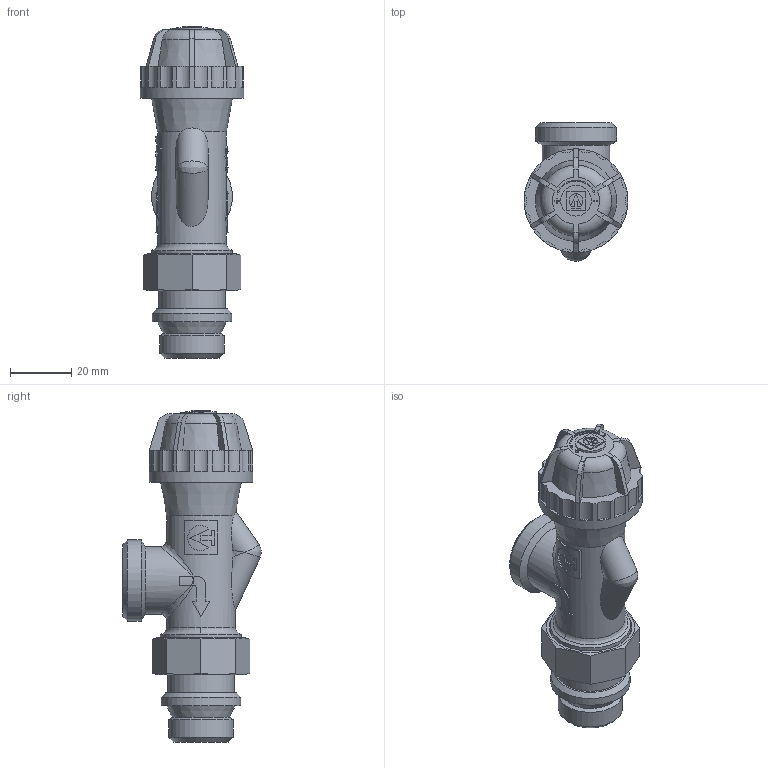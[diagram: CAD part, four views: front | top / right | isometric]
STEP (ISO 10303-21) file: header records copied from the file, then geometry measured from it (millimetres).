
FILE_DESCRIPTION(('STEP AP203'), '1');
FILE_NAME('VT.180.NER.04', '2024-07-01T11:37:33', ('User'), ('Vesta'), 'C3D Converter', 'C3D Toolkit', '');
FILE_SCHEMA(('CONFIG_CONTROL_DESIGN'));
Length unit declared in the file: millimetre
Products named in the file (1): ВР.493171.001.000 СБ
Bounding box: 33.8 x 45.15 x 108.33 mm (x, y, z)
Volume: 57876.3 mm3; surface area: 14267.8 mm2
Topology: 1 solids, 1 shells, 322 faces, 865 edges, 562 vertices
Faces by surface type: plane 160, extrusion 66, cylinder 58, cone 21, torus 10, bspline 7
Full cylindrical faces by diameter (mm): 10 x1, 18.2 x1, 18.3 x1, 20.955 x1, 21.7 x1, 22 x2, 22.4 x1, 22.5 x1, 23.4 x1, 25.9 x1, 26.441 x2, 33.8 x1
Entity records: 14010 total; most frequent: CARTESIAN_POINT 6410, ORIENTED_EDGE 1656, DIRECTION 1365, EDGE_CURVE 828, VERTEX_POINT 562, AXIS2_PLACEMENT_3D 467, VECTOR 431, EDGE_LOOP 376
